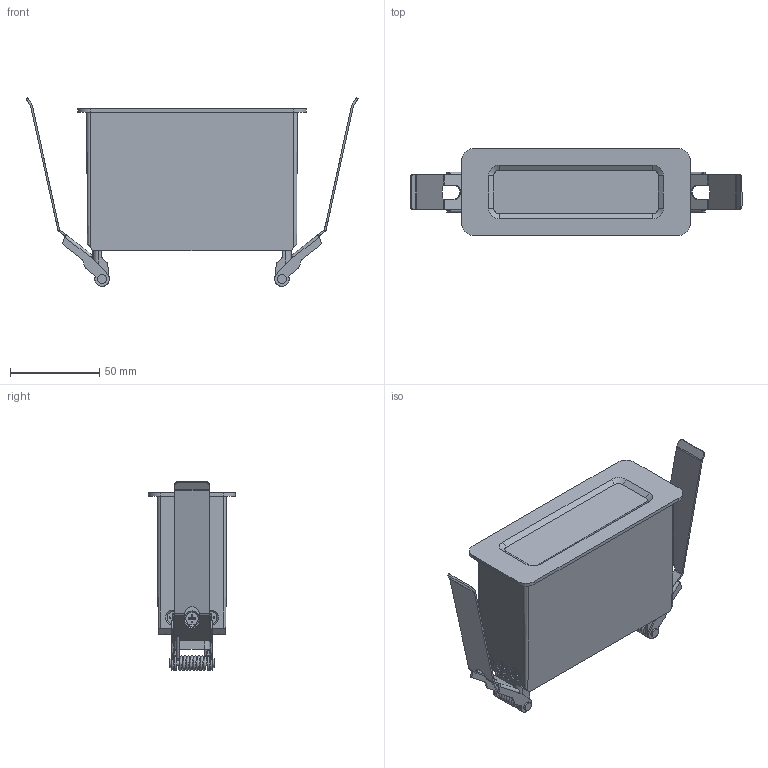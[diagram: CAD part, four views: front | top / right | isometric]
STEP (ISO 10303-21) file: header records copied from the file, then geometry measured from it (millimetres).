
FILE_DESCRIPTION(/* description */ (''),/* implementation_level */ '2;1');
FILE_NAME(/* name */ 'Darcy 4 Cells Assembly - Rec.stp',/* time_stamp */ '2026-02-19T10:50:52+11:00',/* author */ ('Mlight'),/* organization */ (''),/* preprocessor_version */ 'ST-DEVELOPER v20',/* originating_system */ 'Autodesk Inventor 2024',/* authorisation */ '');
FILE_SCHEMA (('AUTOMOTIVE_DESIGN { 1 0 10303 214 3 1 1 }'));
Products named in the file (25): Darcy 4 Cells Assembly; DARCY PCB With Solder Clip 4 Cell; Ledil Darcy PCB; C18696; LED Board 2000 A0; DARCY-4x1; Copy (1) of C19683_DARCY-SHD_004_MechanicalModel_001; Copy (1) of Mechanical-LENS; Copy (2) of Mechanical-LENS; Copy (3) of Mechanical-LENS; Copy (4) of Mechanical-LENS; Evelo X Plastic Internal Body Darcy; Evelo X Aluminium End Cap; Evelo X Heat Sink Toshine Revision; Evelo X Gasket; Air Vent RSV-M12 1.5; Air Vent RSV-M12 1.5_1; Heyco Snap In Liquid Tight Bushing 4014; AS 1427 - M4 x 10; Evelo Modular SM Outer Body; Custom Spring Assembly; Custom Spring Holder; Custom Spring Leg; Pin; Spring
Assembly tree (46 placements, depth 3):
  Darcy 4 Cells Assembly
    DARCY PCB With Solder Clip 4 Cell
      Ledil Darcy PCB
      C18696  x4
      LED Board 2000 A0  x2
    DARCY-4x1
      Copy (1) of C19683_DARCY-SHD_004_MechanicalModel_001
      Copy (1) of Mechanical-LENS
      Copy (2) of Mechanical-LENS
      Copy (3) of Mechanical-LENS
      Copy (4) of Mechanical-LENS
    Evelo X Plastic Internal Body Darcy
    Evelo X Aluminium End Cap  x2
    Evelo X Heat Sink Toshine Revision
    Evelo X Gasket  x2
    AS 1427 - M4 x 10  x14
    Air Vent RSV-M12 1.5  x2
    Air Vent RSV-M12 1.5_1  x2
    Heyco Snap In Liquid Tight Bushing 4014
    Evelo Modular SM Outer Body
    Custom Spring Assembly  x2
      Custom Spring Holder
      Custom Spring Leg
      Pin
      Spring
Bounding box: 186.19 x 48.89 x 105.83 mm (x, y, z)
Volume: 194024.5 mm3; surface area: 165498.3 mm2
Topology: 46 solids, 46 shells, 3734 faces, 9667 edges, 5889 vertices
Faces by surface type: bspline 1199, plane 983, cylinder 707, cone 468, torus 318, sphere 59
Full cylindrical faces by diameter (mm): 1.1 x2, 1.5 x8, 1.6 x2, 2.1 x1, 2.8 x2, 3 x8, 3.2 x2, 3.242 x6, 3.571 x14, 4 x15, 4.5 x18, 4.8 x4, 5 x4, 7 x14, 10 x4, 10.5 x2, 12.5 x1, 19.5 x1
Entity records: 160922 total; most frequent: CARTESIAN_POINT 93695, ORIENTED_EDGE 14960, DIRECTION 12499, EDGE_CURVE 7480, AXIS2_PLACEMENT_3D 5231, VERTEX_POINT 4552, EDGE_LOOP 3044, FACE_OUTER_BOUND 2949
